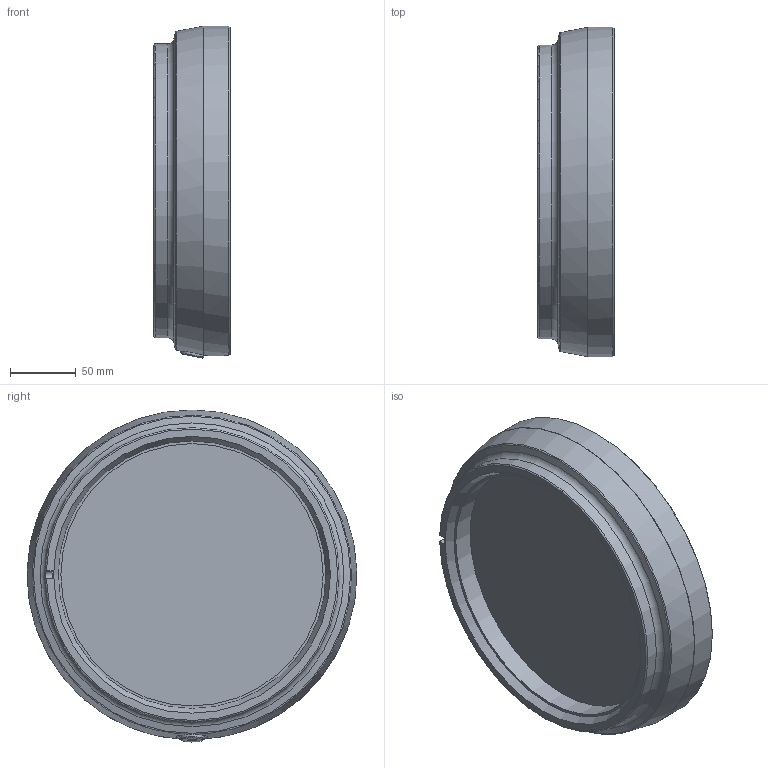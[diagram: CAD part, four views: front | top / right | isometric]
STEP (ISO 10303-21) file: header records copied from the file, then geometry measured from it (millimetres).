
FILE_DESCRIPTION (( 'STEP AP214' ), '1' );
FILE_NAME ('IRB7720_All-290_OC_00_LINK06_CAD.step', '2026-01-28T13:12:37', ( '' ), ( '' ), 'SwSTEP 2.0', 'SolidWorks 2024', '' );
FILE_SCHEMA (( 'AUTOMOTIVE_DESIGN' ));
Length unit declared in the file: millimetre
Products named in the file (1): IRB7720_All-290_OC_00_LINK06_CAD
Bounding box: 57.7 x 250 x 251.84 mm (x, y, z)
Volume: 1500795 mm3; surface area: 195843.3 mm2
Topology: 1 solids, 1 shells, 193 faces, 470 edges, 311 vertices
Faces by surface type: cylinder 96, plane 50, cone 39, torus 7, bspline 1
Full cylindrical faces by diameter (mm): 4.8 x1, 12 x1, 14 x12, 16.27 x27, 17.9 x1, 18 x1, 24 x1, 199 x1, 223 x1, 250 x1
Entity records: 7521 total; most frequent: CARTESIAN_POINT 1303, DIRECTION 939, ORIENTED_EDGE 670, AXIS2_PLACEMENT_3D 420, EDGE_CURVE 335, EDGE_LOOP 311, VERTEX_POINT 262, FACE_OUTER_BOUND 243
